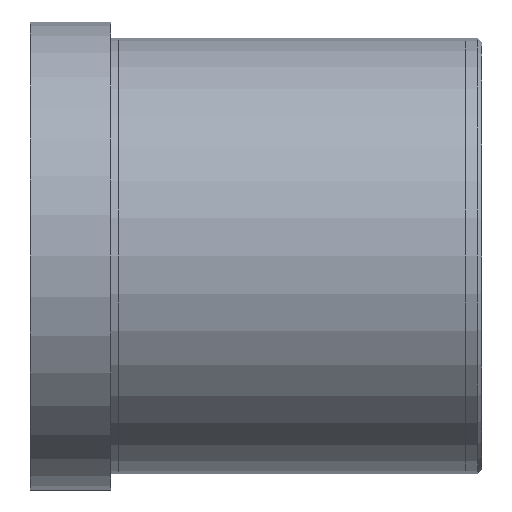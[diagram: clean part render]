
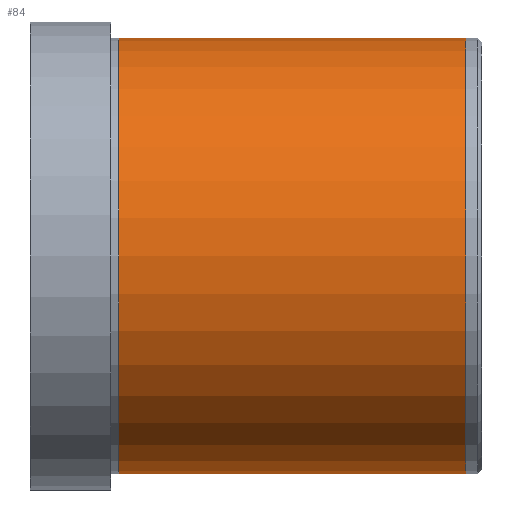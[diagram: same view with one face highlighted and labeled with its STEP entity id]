
A CAD part, front view. The second image highlights one B-rep face of the part: STEP entity #84.
In plain terms, the highlighted face is a revolution surface.
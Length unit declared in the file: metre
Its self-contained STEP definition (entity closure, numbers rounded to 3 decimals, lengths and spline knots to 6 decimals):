
#84 = ADVANCED_FACE( '', ( #116 ), #117, .F. );
#116 = FACE_OUTER_BOUND( '', #174, .T. );
#117 = SURFACE_OF_REVOLUTION( '', #175, #176 );
#174 = EDGE_LOOP( '', ( #357, #358, #359, #360 ) );
#175 = B_SPLINE_CURVE_WITH_KNOTS( '', 1, ( #361, #362 ), .UNSPECIFIED., .F., .F., ( 2, 2 ), ( -10000., 10000. ), .UNSPECIFIED. );
#176 = AXIS1_PLACEMENT( '', #363, #364 );
#357 = ORIENTED_EDGE( '', *, *, #460, .F. );
#358 = ORIENTED_EDGE( '', *, *, #458, .F. );
#359 = ORIENTED_EDGE( '', *, *, #444, .F. );
#360 = ORIENTED_EDGE( '', *, *, #457, .F. );
#361 = CARTESIAN_POINT( '', ( -10000.019, 0., -0.02701 ) );
#362 = CARTESIAN_POINT( '', ( 9999.981, 0., -0.02701 ) );
#363 = CARTESIAN_POINT( '', ( 0.042419, 0., 0. ) );
#364 = DIRECTION( '', ( -1., 0., 0. ) );
#444 = EDGE_CURVE( '', #488, #487, #490, .T. );
#457 = EDGE_CURVE( '', #511, #488, #512, .T. );
#458 = EDGE_CURVE( '', #487, #513, #514, .F. );
#460 = EDGE_CURVE( '', #513, #511, #516, .F. );
#487 = VERTEX_POINT( '', #555 );
#488 = VERTEX_POINT( '', #556 );
#490 = CIRCLE( '', #558, 0.02701 );
#511 = VERTEX_POINT( '', #583 );
#512 = LINE( '', #584, #585 );
#513 = VERTEX_POINT( '', #586 );
#514 = LINE( '', #587, #588 );
#516 = CIRCLE( '', #590, 0.02701 );
#555 = CARTESIAN_POINT( '', ( 0.024, 0., -0.02701 ) );
#556 = CARTESIAN_POINT( '', ( 0.024, 0., 0.02701 ) );
#558 = AXIS2_PLACEMENT_3D( '', #680, #681, #682 );
#583 = CARTESIAN_POINT( '', ( -0.019, 0., 0.02701 ) );
#584 = CARTESIAN_POINT( '', ( -0.019, 0., 0.02701 ) );
#585 = VECTOR( '', #711, 1. );
#586 = CARTESIAN_POINT( '', ( -0.019, 0., -0.02701 ) );
#587 = CARTESIAN_POINT( '', ( -0.019, 0., -0.02701 ) );
#588 = VECTOR( '', #712, 1. );
#590 = AXIS2_PLACEMENT_3D( '', #716, #717, #718 );
#680 = CARTESIAN_POINT( '', ( 0.024, 0., 0. ) );
#681 = DIRECTION( '', ( 1., 0., 0. ) );
#682 = DIRECTION( '', ( 0., 0., -1. ) );
#711 = DIRECTION( '', ( 1., 0., 0. ) );
#712 = DIRECTION( '', ( 1., 0., 0. ) );
#716 = CARTESIAN_POINT( '', ( -0.019, 0., 0. ) );
#717 = DIRECTION( '', ( 1., 0., 0. ) );
#718 = DIRECTION( '', ( 0., 0., -1. ) );
